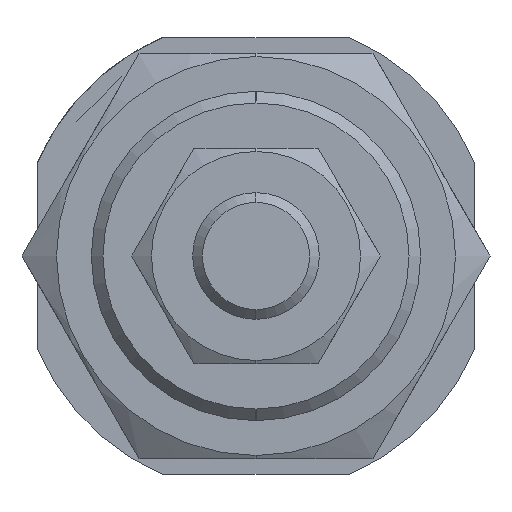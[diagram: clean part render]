
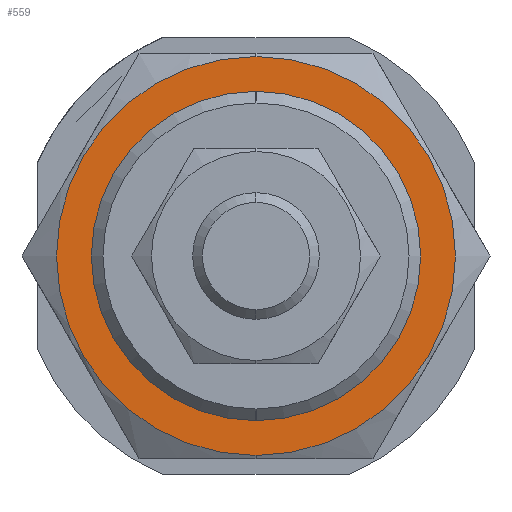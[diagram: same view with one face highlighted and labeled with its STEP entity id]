
A CAD part, left-side view. The second image highlights one B-rep face of the part: STEP entity #559.
In plain terms, the highlighted planar face has unit normal (-1, 0, 0).
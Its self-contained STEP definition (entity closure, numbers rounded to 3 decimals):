
#2 = AXIS2_PLACEMENT_3D ( 'NONE', #2975, #2155, #1255 ) ;
#4 = CARTESIAN_POINT ( 'NONE',  ( -11., 0., 15.75 ) ) ;
#42 = DIRECTION ( 'NONE',  ( 0., 0., -1. ) ) ;
#120 = CIRCLE ( 'NONE', #3077, 13. ) ;
#394 = CIRCLE ( 'NONE', #4847, 15.75 ) ;
#553 = CARTESIAN_POINT ( 'NONE',  ( -11., 0., 0. ) ) ;
#559 = ADVANCED_FACE ( 'NONE', ( #1309, #4239 ), #2049, .F. ) ;
#758 = DIRECTION ( 'NONE',  ( 0., 0., -1. ) ) ;
#878 = ORIENTED_EDGE ( 'NONE', *, *, #1397, .T. ) ;
#1089 = DIRECTION ( 'NONE',  ( 0., 0., -1. ) ) ;
#1129 = DIRECTION ( 'NONE',  ( 0., 0., -1. ) ) ;
#1173 = VERTEX_POINT ( 'NONE', #4639 ) ;
#1255 = DIRECTION ( 'NONE',  ( 0., 1., 0. ) ) ;
#1283 = ORIENTED_EDGE ( 'NONE', *, *, #1518, .T. ) ;
#1309 = FACE_OUTER_BOUND ( 'NONE', #3479, .T. ) ;
#1325 = VERTEX_POINT ( 'NONE', #1912 ) ;
#1397 = EDGE_CURVE ( 'NONE', #1761, #1173, #120, .T. ) ;
#1412 = AXIS2_PLACEMENT_3D ( 'NONE', #2289, #4405, #1129 ) ;
#1500 = EDGE_LOOP ( 'NONE', ( #878, #1283 ) ) ;
#1518 = EDGE_CURVE ( 'NONE', #1173, #1761, #3429, .T. ) ;
#1761 = VERTEX_POINT ( 'NONE', #3122 ) ;
#1912 = CARTESIAN_POINT ( 'NONE',  ( -11., 0., -15.75 ) ) ;
#1994 = CARTESIAN_POINT ( 'NONE',  ( -11., 0., 0. ) ) ;
#2049 = PLANE ( 'NONE',  #2 ) ;
#2155 = DIRECTION ( 'NONE',  ( 1., 0., 0. ) ) ;
#2256 = ORIENTED_EDGE ( 'NONE', *, *, #3433, .F. ) ;
#2289 = CARTESIAN_POINT ( 'NONE',  ( -11., 0., 0. ) ) ;
#2318 = CARTESIAN_POINT ( 'NONE',  ( -11., 0., 0. ) ) ;
#2728 = DIRECTION ( 'NONE',  ( 1., 0., 0. ) ) ;
#2936 = DIRECTION ( 'NONE',  ( 1., 0., 0. ) ) ;
#2975 = CARTESIAN_POINT ( 'NONE',  ( -11., 0., 0. ) ) ;
#3077 = AXIS2_PLACEMENT_3D ( 'NONE', #1994, #4921, #758 ) ;
#3122 = CARTESIAN_POINT ( 'NONE',  ( -11., 0., 13. ) ) ;
#3279 = ORIENTED_EDGE ( 'NONE', *, *, #5261, .F. ) ;
#3339 = CIRCLE ( 'NONE', #1412, 15.75 ) ;
#3429 = CIRCLE ( 'NONE', #3782, 13. ) ;
#3433 = EDGE_CURVE ( 'NONE', #5003, #1325, #394, .T. ) ;
#3479 = EDGE_LOOP ( 'NONE', ( #3279, #2256 ) ) ;
#3782 = AXIS2_PLACEMENT_3D ( 'NONE', #553, #2936, #42 ) ;
#4239 = FACE_BOUND ( 'NONE', #1500, .T. ) ;
#4405 = DIRECTION ( 'NONE',  ( 1., 0., 0. ) ) ;
#4639 = CARTESIAN_POINT ( 'NONE',  ( -11., 0., -13. ) ) ;
#4847 = AXIS2_PLACEMENT_3D ( 'NONE', #2318, #2728, #1089 ) ;
#4921 = DIRECTION ( 'NONE',  ( 1., 0., 0. ) ) ;
#5003 = VERTEX_POINT ( 'NONE', #4 ) ;
#5261 = EDGE_CURVE ( 'NONE', #1325, #5003, #3339, .T. ) ;
